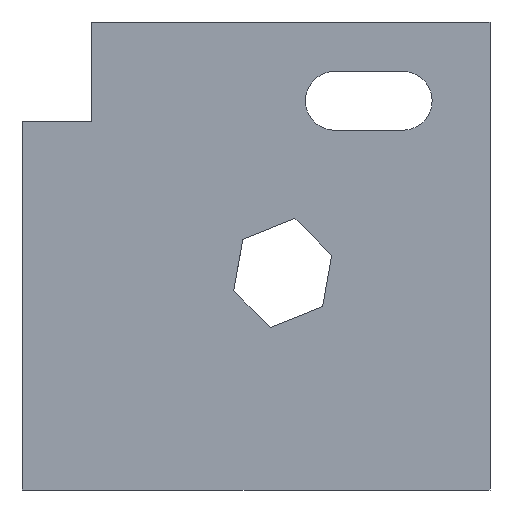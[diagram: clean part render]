
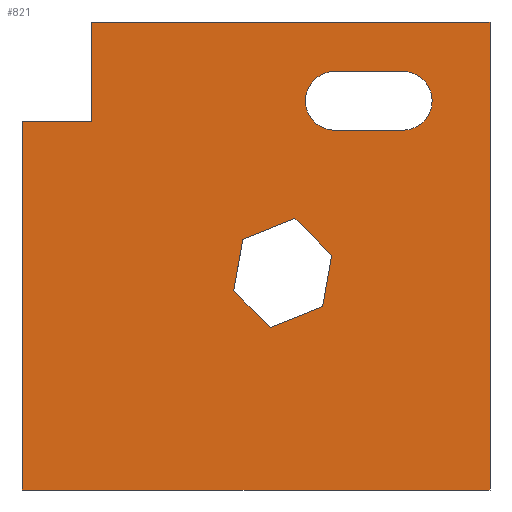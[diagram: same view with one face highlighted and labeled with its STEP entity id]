
A CAD part, front view. The second image highlights one B-rep face of the part: STEP entity #821.
In plain terms, the highlighted planar face has unit normal (0, -1, 0).
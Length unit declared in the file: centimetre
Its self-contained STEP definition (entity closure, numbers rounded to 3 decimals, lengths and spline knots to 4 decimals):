
#7 = CARTESIAN_POINT ( 'NONE',  ( 0., 0., 1000. ) ) ;
#14 = CARTESIAN_POINT ( 'NONE',  ( 668.2812, 0., 768.7088 ) ) ;
#21 = VECTOR ( 'NONE', #928, 100. ) ;
#26 = CARTESIAN_POINT ( 'NONE',  ( 0., 0., 1000. ) ) ;
#61 = VECTOR ( 'NONE', #1394, 100. ) ;
#65 = CARTESIAN_POINT ( 'NONE',  ( 668.2812, 0., 894.2276 ) ) ;
#76 = DIRECTION ( 'NONE',  ( 0.928, 0., 0.373 ) ) ;
#79 = VECTOR ( 'NONE', #677, 100. ) ;
#100 = CARTESIAN_POINT ( 'NONE',  ( 583.2904, 0., 580.0543 ) ) ;
#118 = CARTESIAN_POINT ( 'NONE',  ( 471.8286, 0., 535.295 ) ) ;
#124 = VERTEX_POINT ( 'NONE', #919 ) ;
#127 = EDGE_LOOP ( 'NONE', ( #694, #1396, #737, #791, #1407, #550 ) ) ;
#136 = VERTEX_POINT ( 'NONE', #470 ) ;
#140 = LINE ( 'NONE', #455, #686 ) ;
#142 = VECTOR ( 'NONE', #625, 100. ) ;
#147 = EDGE_CURVE ( 'NONE', #1006, #814, #140, .T. ) ;
#167 = ORIENTED_EDGE ( 'NONE', *, *, #548, .F. ) ;
#170 = ORIENTED_EDGE ( 'NONE', *, *, #757, .T. ) ;
#199 = DIRECTION ( 'NONE',  ( 0.175, 0., 0.985 ) ) ;
#206 = DIRECTION ( 'NONE',  ( 0., 0., -1. ) ) ;
#208 = VECTOR ( 'NONE', #873, 100. ) ;
#214 = LINE ( 'NONE', #100, #633 ) ;
#230 = DIRECTION ( 'NONE',  ( 1., 0., 0. ) ) ;
#240 = VERTEX_POINT ( 'NONE', #1276 ) ;
#245 = LINE ( 'NONE', #14, #1292 ) ;
#306 = EDGE_CURVE ( 'NONE', #472, #1024, #728, .T. ) ;
#309 = LINE ( 'NONE', #1091, #208 ) ;
#326 = ORIENTED_EDGE ( 'NONE', *, *, #931, .F. ) ;
#331 = LINE ( 'NONE', #7, #21 ) ;
#353 = VERTEX_POINT ( 'NONE', #972 ) ;
#359 = VECTOR ( 'NONE', #230, 100. ) ;
#371 = FACE_BOUND ( 'NONE', #724, .T. ) ;
#378 = DIRECTION ( 'NONE',  ( 0., 0., -1. ) ) ;
#382 = VERTEX_POINT ( 'NONE', #1334 ) ;
#391 = LINE ( 'NONE', #1301, #142 ) ;
#426 = DIRECTION ( 'NONE',  ( -0.928, 0., -0.373 ) ) ;
#453 = CARTESIAN_POINT ( 'NONE',  ( 642.2883, 0., 391.9613 ) ) ;
#455 = CARTESIAN_POINT ( 'NONE',  ( 1000., 0., 1000. ) ) ;
#466 = EDGE_LOOP ( 'NONE', ( #1283, #167, #326, #794, #1362, #1181 ) ) ;
#470 = CARTESIAN_POINT ( 'NONE',  ( 471.8286, 0., 535.295 ) ) ;
#472 = VERTEX_POINT ( 'NONE', #65 ) ;
#479 = DIRECTION ( 'NONE',  ( 0., 1., 0. ) ) ;
#519 = DIRECTION ( 'NONE',  ( -0.707, 0., 0.707 ) ) ;
#530 = AXIS2_PLACEMENT_3D ( 'NONE', #595, #1059, #378 ) ;
#548 = EDGE_CURVE ( 'NONE', #608, #629, #1210, .T. ) ;
#550 = ORIENTED_EDGE ( 'NONE', *, *, #147, .F. ) ;
#575 = CARTESIAN_POINT ( 'NONE',  ( 813.6423, 0., 894.2276 ) ) ;
#580 = DIRECTION ( 'NONE',  ( 0., 1., 0. ) ) ;
#591 = EDGE_CURVE ( 'NONE', #124, #1299, #245, .T. ) ;
#595 = CARTESIAN_POINT ( 'NONE',  ( 668.2812, 0., 831.4682 ) ) ;
#601 = AXIS2_PLACEMENT_3D ( 'NONE', #1114, #580, #206 ) ;
#604 = DIRECTION ( 'NONE',  ( 0., 0., 1. ) ) ;
#606 = CARTESIAN_POINT ( 'NONE',  ( 813.6423, 0., 894.2276 ) ) ;
#608 = VERTEX_POINT ( 'NONE', #453 ) ;
#618 = CARTESIAN_POINT ( 'NONE',  ( 661.7387, 0., 501.606 ) ) ;
#625 = DIRECTION ( 'NONE',  ( 1., 0., 0. ) ) ;
#629 = VERTEX_POINT ( 'NONE', #1371 ) ;
#633 = VECTOR ( 'NONE', #426, 100. ) ;
#653 = DIRECTION ( 'NONE',  ( 0., 0., -1. ) ) ;
#656 = VECTOR ( 'NONE', #519, 100. ) ;
#669 = EDGE_CURVE ( 'NONE', #881, #1006, #331, .T. ) ;
#673 = DIRECTION ( 'NONE',  ( -0.175, 0., -0.985 ) ) ;
#677 = DIRECTION ( 'NONE',  ( 0.707, 0., -0.707 ) ) ;
#683 = CARTESIAN_POINT ( 'NONE',  ( 0., 0., 787.6039 ) ) ;
#686 = VECTOR ( 'NONE', #1367, 100. ) ;
#694 = ORIENTED_EDGE ( 'NONE', *, *, #669, .F. ) ;
#708 = DIRECTION ( 'NONE',  ( -1., 0., 0. ) ) ;
#713 = VECTOR ( 'NONE', #76, 100. ) ;
#724 = EDGE_LOOP ( 'NONE', ( #981, #170, #1418, #926 ) ) ;
#728 = LINE ( 'NONE', #606, #61 ) ;
#737 = ORIENTED_EDGE ( 'NONE', *, *, #985, .F. ) ;
#757 = EDGE_CURVE ( 'NONE', #1299, #472, #869, .T. ) ;
#774 = LINE ( 'NONE', #683, #359 ) ;
#784 = CARTESIAN_POINT ( 'NONE',  ( 1000., 0., 1000. ) ) ;
#791 = ORIENTED_EDGE ( 'NONE', *, *, #888, .T. ) ;
#794 = ORIENTED_EDGE ( 'NONE', *, *, #1431, .F. ) ;
#814 = VERTEX_POINT ( 'NONE', #1173 ) ;
#821 = ADVANCED_FACE ( 'NONE', ( #1048, #371, #834 ), #938, .F. ) ;
#822 = VECTOR ( 'NONE', #199, 100. ) ;
#834 = FACE_OUTER_BOUND ( 'NONE', #127, .T. ) ;
#869 = CIRCLE ( 'NONE', #530, 62.7594 ) ;
#873 = DIRECTION ( 'NONE',  ( 0., 0., 1. ) ) ;
#881 = VERTEX_POINT ( 'NONE', #1336 ) ;
#888 = EDGE_CURVE ( 'NONE', #1462, #353, #1071, .T. ) ;
#898 = CARTESIAN_POINT ( 'NONE',  ( 452.3782, 0., 425.6503 ) ) ;
#919 = CARTESIAN_POINT ( 'NONE',  ( 813.6423, 0., 768.7088 ) ) ;
#926 = ORIENTED_EDGE ( 'NONE', *, *, #1445, .T. ) ;
#928 = DIRECTION ( 'NONE',  ( 1., 0., 0. ) ) ;
#931 = EDGE_CURVE ( 'NONE', #1350, #608, #1416, .T. ) ;
#934 = CIRCLE ( 'NONE', #601, 62.7594 ) ;
#938 = PLANE ( 'NONE',  #1169 ) ;
#972 = CARTESIAN_POINT ( 'NONE',  ( 0., 0., 0. ) ) ;
#981 = ORIENTED_EDGE ( 'NONE', *, *, #591, .T. ) ;
#982 = CARTESIAN_POINT ( 'NONE',  ( 530.8266, 0., 347.202 ) ) ;
#985 = EDGE_CURVE ( 'NONE', #1462, #240, #774, .T. ) ;
#1006 = VERTEX_POINT ( 'NONE', #784 ) ;
#1024 = VERTEX_POINT ( 'NONE', #575 ) ;
#1047 = EDGE_CURVE ( 'NONE', #136, #382, #1456, .T. ) ;
#1048 = FACE_BOUND ( 'NONE', #466, .T. ) ;
#1056 = VECTOR ( 'NONE', #653, 100. ) ;
#1059 = DIRECTION ( 'NONE',  ( 0., 1., 0. ) ) ;
#1071 = LINE ( 'NONE', #1100, #1056 ) ;
#1076 = CARTESIAN_POINT ( 'NONE',  ( 642.2883, 0., 391.9613 ) ) ;
#1083 = CARTESIAN_POINT ( 'NONE',  ( 668.2812, 0., 768.7088 ) ) ;
#1091 = CARTESIAN_POINT ( 'NONE',  ( 147.9077, 0., 787.6039 ) ) ;
#1100 = CARTESIAN_POINT ( 'NONE',  ( 0., 0., 1000. ) ) ;
#1114 = CARTESIAN_POINT ( 'NONE',  ( 813.6423, 0., 831.4682 ) ) ;
#1169 = AXIS2_PLACEMENT_3D ( 'NONE', #26, #479, #604 ) ;
#1170 = VECTOR ( 'NONE', #673, 100. ) ;
#1173 = CARTESIAN_POINT ( 'NONE',  ( 1000., 0., 0. ) ) ;
#1181 = ORIENTED_EDGE ( 'NONE', *, *, #1365, .F. ) ;
#1210 = LINE ( 'NONE', #1076, #822 ) ;
#1217 = CARTESIAN_POINT ( 'NONE',  ( 583.2904, 0., 580.0543 ) ) ;
#1228 = CARTESIAN_POINT ( 'NONE',  ( 0., 0., 787.6039 ) ) ;
#1276 = CARTESIAN_POINT ( 'NONE',  ( 147.9077, 0., 787.6039 ) ) ;
#1282 = EDGE_CURVE ( 'NONE', #629, #1439, #1317, .T. ) ;
#1283 = ORIENTED_EDGE ( 'NONE', *, *, #1282, .F. ) ;
#1292 = VECTOR ( 'NONE', #708, 100. ) ;
#1299 = VERTEX_POINT ( 'NONE', #1083 ) ;
#1301 = CARTESIAN_POINT ( 'NONE',  ( 0., 0., 0. ) ) ;
#1307 = EDGE_CURVE ( 'NONE', #240, #881, #309, .T. ) ;
#1317 = LINE ( 'NONE', #618, #656 ) ;
#1334 = CARTESIAN_POINT ( 'NONE',  ( 452.3782, 0., 425.6503 ) ) ;
#1336 = CARTESIAN_POINT ( 'NONE',  ( 147.9077, 0., 1000. ) ) ;
#1350 = VERTEX_POINT ( 'NONE', #1405 ) ;
#1355 = EDGE_CURVE ( 'NONE', #353, #814, #391, .T. ) ;
#1362 = ORIENTED_EDGE ( 'NONE', *, *, #1047, .F. ) ;
#1365 = EDGE_CURVE ( 'NONE', #1439, #136, #214, .T. ) ;
#1367 = DIRECTION ( 'NONE',  ( 0., 0., -1. ) ) ;
#1371 = CARTESIAN_POINT ( 'NONE',  ( 661.7387, 0., 501.606 ) ) ;
#1394 = DIRECTION ( 'NONE',  ( 1., 0., 0. ) ) ;
#1396 = ORIENTED_EDGE ( 'NONE', *, *, #1307, .F. ) ;
#1405 = CARTESIAN_POINT ( 'NONE',  ( 530.8266, 0., 347.202 ) ) ;
#1407 = ORIENTED_EDGE ( 'NONE', *, *, #1355, .T. ) ;
#1416 = LINE ( 'NONE', #982, #713 ) ;
#1418 = ORIENTED_EDGE ( 'NONE', *, *, #306, .T. ) ;
#1431 = EDGE_CURVE ( 'NONE', #382, #1350, #1451, .T. ) ;
#1439 = VERTEX_POINT ( 'NONE', #1217 ) ;
#1445 = EDGE_CURVE ( 'NONE', #1024, #124, #934, .T. ) ;
#1451 = LINE ( 'NONE', #898, #79 ) ;
#1456 = LINE ( 'NONE', #118, #1170 ) ;
#1462 = VERTEX_POINT ( 'NONE', #1228 ) ;
